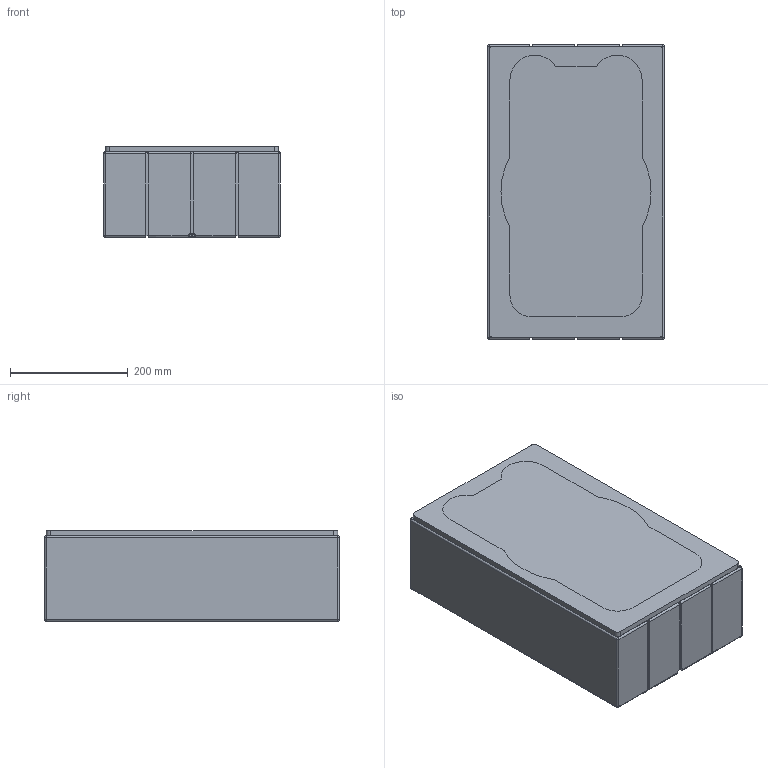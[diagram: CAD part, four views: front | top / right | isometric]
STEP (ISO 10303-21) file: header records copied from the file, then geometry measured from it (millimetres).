
FILE_DESCRIPTION(/* description */ (''),/* implementation_level */ '2;1');
FILE_NAME(/* name */ 'The10 PASSIVE 2023_COMBINE v7.step',/* time_stamp */ '2023-06-25T21:47:27+02:00',/* author */ (''),/* organization */ (''),/* preprocessor_version */ 'ST-DEVELOPER v19.2',/* originating_system */ 'Autodesk Translation Framework v12.6.0.85',/* authorisation */ '');
FILE_SCHEMA (('AUTOMOTIVE_DESIGN { 1 0 10303 214 3 1 1 }'));
Products named in the file (3): The10 PASSIVE 2023_COMBINE; COMBINE_Grille; COMBINE_FullSpeaker
Assembly tree (2 placements, depth 2):
  The10 PASSIVE 2023_COMBINE
    COMBINE_Grille
    COMBINE_FullSpeaker
Bounding box: 300 x 500 x 154.12 mm (x, y, z)
Volume: 7458565.8 mm3; surface area: 1641976.3 mm2
Topology: 7 solids, 31 shells, 3294 faces, 8670 edges, 5631 vertices
Faces by surface type: plane 1726, bspline 605, cylinder 595, cone 240, torus 115, sphere 13
Full cylindrical faces by diameter (mm): 2.5 x8, 3 x36, 3.2 x2, 3.5 x53, 4 x36, 4.5 x2, 4.8 x8, 5.7 x4, 6 x4, 6.2 x3, 6.5 x3, 6.8 x4, 7.3 x4, 10 x16, 10.3 x16, 11.3 x4, 34.8 x4, 51.924 x2, 60.924 x2, 62.798 x2, 75.924 x4, 81.6 x2, 81.8 x2, 86 x1, 98 x1, 100 x1, 118 x1, 120 x1, 120.6 x1, 134 x1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
Entity records: 134478 total; most frequent: CARTESIAN_POINT 54873, ORIENTED_EDGE 17274, DIRECTION 15277, EDGE_CURVE 8637, VERTEX_POINT 5631, AXIS2_PLACEMENT_3D 5193, LINE 4891, VECTOR 4891
